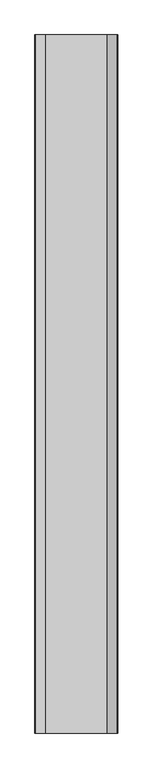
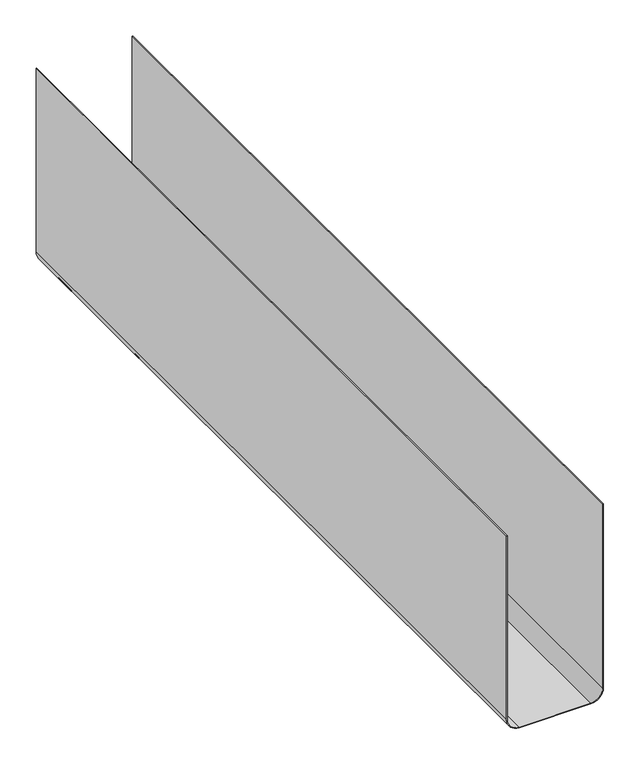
"""IFC4 building model written with IfcOpenShell, lengths in millimetres: proxy geometry, sikawrapElvis_inclinata : sikawrapElvis_inclinata."""

from ifc_helpers import new_model, si_unit, point, frame, frame_2d, origin, place, context, project, spatial, polyline, circle_curve, trimmed, segment, composite_curve, outline, extrude, source, transform, mapped, element, save


def generic_models_80d8fc9b(model_context):
    return source(origin(), model_context, "Body", "SweptSolid", [
        extrude(outline(composite_curve([segment(trimmed(circle_curve(frame_2d((20.0, -57.25)), 20.0), [point((20.0, -77.25))], [point((0.0, -57.25))], False, "CARTESIAN"), True, "CONTINUOUS"), segment(polyline([(0.0, -57.25), (0.0, 57.25)]), True, "CONTINUOUS"), segment(trimmed(circle_curve(frame_2d((20.0, 57.25)), 20.0), [point((0.0, 57.25))], [point((20.0, 77.25))], False, "CARTESIAN"), True, "CONTINUOUS"), segment(polyline([(20.0, 77.25), (330.0, 77.25), (330.0, 76.25), (20.0, 76.25)]), True, "CONTINUOUS"), segment(trimmed(circle_curve(frame_2d((20.0, 57.25)), 19.0), [point((20.0, 76.25))], [point((1.0, 57.25))], True, "CARTESIAN"), True, "CONTINUOUS"), segment(polyline([(1.0, 57.25), (1.0, -57.25)]), True, "CONTINUOUS"), segment(trimmed(circle_curve(frame_2d((20.0, -57.25)), 19.0), [point((1.0, -57.25))], [point((20.0, -76.25))], True, "CARTESIAN"), True, "CONTINUOUS"), segment(polyline([(20.0, -76.25), (330.0, -76.25), (330.0, -77.25), (20.0, -77.25)]), True, "CONTINUOUS")], self_intersect=False)), frame((0.0, 0.0, 0.0), z_axis=(0.0, 1.0, 0.0), x_axis=(0.0, 0.0, 1.0)), (0.0, 0.0, 1.0), 1300.0),
    ])


if __name__ == "__main__":
    model = new_model("IFC4")
    model_context = context("Model", 3, world=origin())
    ifc_project = project(units=[si_unit("LENGTHUNIT", "METRE", prefix="MILLI")], contexts=[model_context])
    site = spatial("IfcSite", under=ifc_project)
    building = spatial("IfcBuilding", under=site)
    placement = place(None, origin())
    generic_models_shape = generic_models_80d8fc9b(model_context)
    element("IfcBuildingElementProxy", 1, Name="sikawrapElvis_inclinata : sikawrapElvis_inclinata", ObjectType="sikawrapElvis_inclinata : sikawrapElvis_inclinata", at=placement, inside=building, context=model_context, shape_type="MappedRepresentation", body=[
        mapped(generic_models_shape, transform((0.0, 0.0, 0.0), x_axis=(1.0, 0.0, 0.0), y_axis=(0.0, 1.0, 0.0), z_axis=(0.0, 0.0, 1.0))),
    ])
    save(model, "model.ifc")
